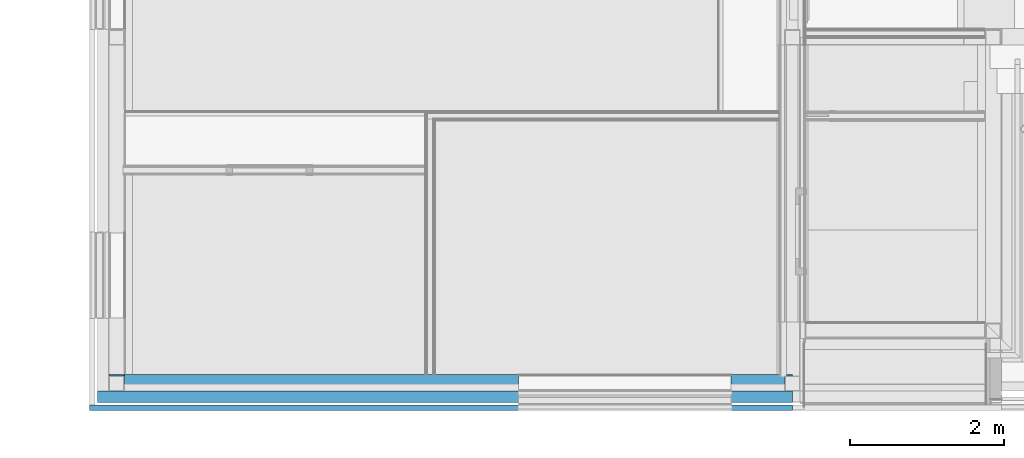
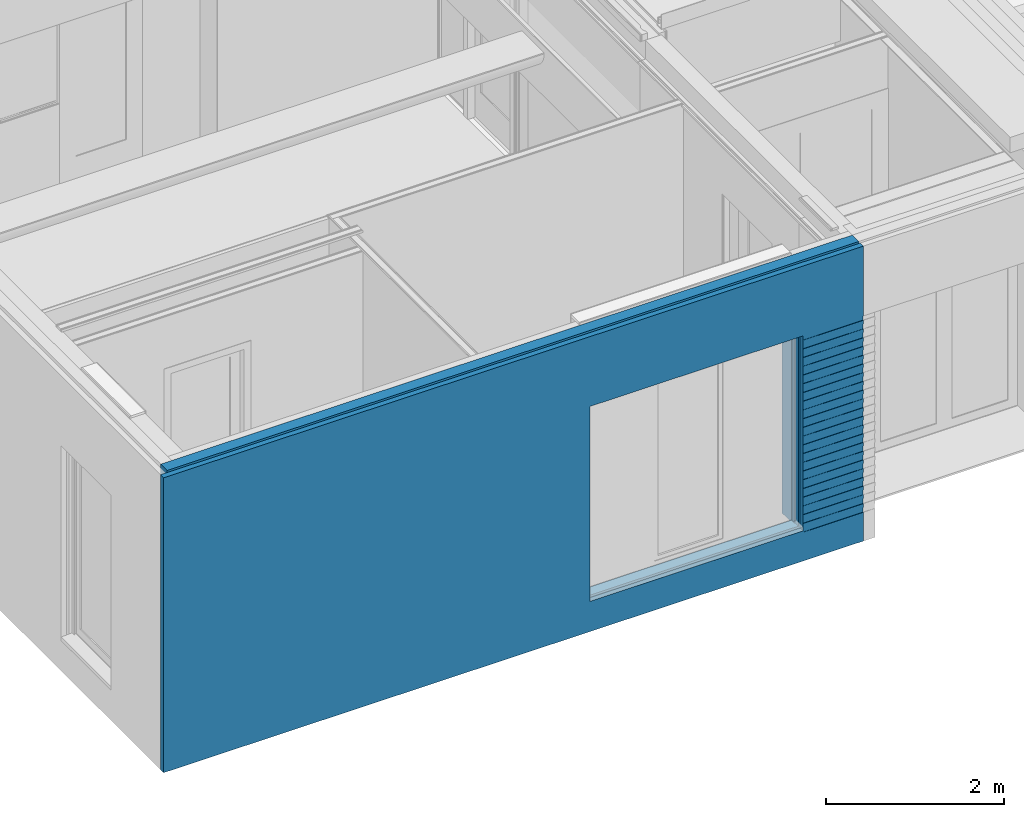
# One storey, part 38 of 165: 3 building element parts, 1 opening, 1 element without a shape of its own.
"""IFC2X3 building model written with IfcOpenShell, lengths in millimetres."""

import ifcopenshell
import ifcopenshell.guid

model = None  # the IFC model being written
_history = None  # IfcOwnerHistory: only IFC2X3 demands one
_inside = {}  # id of a spatial element -> (the spatial element, [elements in it])
_under = {}  # id of a project, library or spatial element -> (it, [spatial elements below it])
_declared = {}  # id of a project -> (the project, [libraries it declares])
_typed = {}  # id of a type object -> (the type object, [elements of that type])
_made_of = {}  # id of a material, layer set ... -> (it, [elements and type objects made of it])


def new_model(schema):
    """Start an empty IFC model of exactly this schema.

    Asked for "IFC4X3", IfcOpenShell would pick the latest addendum, in which some entities
    have other attributes; the version numbers below select the first issue.
    IFC2X3 requires an IfcOwnerHistory on every rooted entity: one is made here for all.
    """
    global model, _history
    if schema == "IFC4X3":
        model = ifcopenshell.file(schema_version=(4, 3, 0, 0))
    else:
        model = ifcopenshell.file(schema=schema)
    _inside.clear()
    _under.clear()
    _declared.clear()
    _typed.clear()
    _made_of.clear()
    _history = None
    if model.schema == "IFC2X3":
        org = make("IfcOrganization", Name="unknown")
        user = make(
            "IfcPersonAndOrganization",
            ThePerson=make("IfcPerson", FamilyName="unknown"),
            TheOrganization=org,
        )
        app = make(
            "IfcApplication",
            ApplicationDeveloper=org,
            Version="unknown",
            ApplicationFullName="unknown",
            ApplicationIdentifier="unknown",
        )
        _history = make(
            "IfcOwnerHistory",
            OwningUser=user,
            OwningApplication=app,
            ChangeAction="ADDED",
            CreationDate=0,
        )
    return model


def make(cls, **values):
    """One entity of the class cls with the attributes given. An attribute that is None is left unset."""
    return model.create_entity(
        cls, **{name: value for name, value in values.items() if value is not None}
    )


def entity(cls, *values):
    """Any entity or typed value of the class cls, its attributes in the order of the schema. None: left unset."""
    e = model.create_entity(cls)
    for i, value in enumerate(values):
        if value is not None:
            e[i] = value
    return e


def rooted(cls, **values):
    """An entity with a GlobalId (a new one), such as an element, a storey or a relation."""
    return make(cls, GlobalId=ifcopenshell.guid.new(), OwnerHistory=_history, **values)


def si_unit(unit_type, name, prefix=None):
    """IfcSIUnit, for example si_unit("LENGTHUNIT", "METRE", prefix="MILLI")."""
    return make("IfcSIUnit", UnitType=unit_type, Prefix=prefix, Name=name)


def converted_unit(unit_type, name, factor, base, dimensions=None, offset=None):
    """IfcConversionBasedUnit, such as the inch: factor (a typed value) times the base unit."""
    return make(
        "IfcConversionBasedUnit"
        if offset is None
        else "IfcConversionBasedUnitWithOffset",
        ConversionOffset=offset,
        Dimensions=None
        if dimensions is None
        else entity("IfcDimensionalExponents", *dimensions),
        UnitType=unit_type,
        Name=name,
        ConversionFactor=make(
            "IfcMeasureWithUnit", ValueComponent=factor, UnitComponent=base
        ),
    )


def derived_unit(unit_type, elements):
    """IfcDerivedUnit: a product of units, each with its exponent."""
    return make(
        "IfcDerivedUnit",
        Elements=[
            make("IfcDerivedUnitElement", Unit=unit, Exponent=power)
            for unit, power in elements
        ],
        UnitType=unit_type,
    )


def money_unit(currency):
    """IfcMonetaryUnit."""
    return make("IfcMonetaryUnit", Currency=currency)


def assignment(units):
    """IfcUnitAssignment: the units of a project."""
    return None if units is None else make("IfcUnitAssignment", Units=units)


def point(xyz):
    """IfcCartesianPoint."""
    return None if xyz is None else make("IfcCartesianPoint", Coordinates=xyz)


def direction(xyz):
    """IfcDirection."""
    return None if xyz is None else make("IfcDirection", DirectionRatios=xyz)


def frame(location, z_axis=None, x_axis=None):
    """IfcAxis2Placement3D, a coordinate frame: its origin and axes. An axis left out is left unset."""
    return make(
        "IfcAxis2Placement3D",
        Location=point(location),
        Axis=direction(z_axis),
        RefDirection=direction(x_axis),
    )


def origin_with_axes():
    """The frame at (0, 0, 0) with the z axis (0, 0, 1) and the x axis (1, 0, 0) written out."""
    return frame((0.0, 0.0, 0.0), z_axis=(0.0, 0.0, 1.0), x_axis=(1.0, 0.0, 0.0))


def place(relative_to, where):
    """IfcLocalPlacement: puts the frame where relative to a parent placement (None: the world)."""
    return make(
        "IfcLocalPlacement", PlacementRelTo=relative_to, RelativePlacement=where
    )


def context(
    kind, dimensions, precision=None, world=None, true_north=None, identifier=None
):
    """IfcGeometricRepresentationContext, for example the 3D "Model" context."""
    return make(
        "IfcGeometricRepresentationContext",
        ContextIdentifier=identifier,
        ContextType=kind,
        CoordinateSpaceDimension=dimensions,
        Precision=precision,
        WorldCoordinateSystem=world,
        TrueNorth=true_north,
    )


def subcontext(parent, identifier, kind, view, scale=None):
    """IfcGeometricRepresentationSubContext, for example "Body" below "Model"."""
    return make(
        "IfcGeometricRepresentationSubContext",
        ContextIdentifier=identifier,
        ContextType=kind,
        ParentContext=parent,
        TargetScale=scale,
        TargetView=view,
    )


def project(units=None, contexts=None):
    """IfcProject with its units and contexts."""
    return rooted(
        "IfcProject",
        Name="project",
        RepresentationContexts=contexts,
        UnitsInContext=assignment(units),
    )


def spatial(cls, under=None, at=None, **own):
    """A site, building, storey or space (cls), placed at a placement, below another one or the project."""
    s = rooted(cls, ObjectPlacement=at, **own)
    if under is not None:
        _under.setdefault(under.id(), (under, []))[1].append(s)
    return s


def faces_of(points, faces, orient=None, outer=None):
    """IfcFace entities. A face is a list of loops; a loop is a list of indices into points, from 0.

    orient and outer hold one flag for each loop. By default every Orientation is true, the
    first loop of a face is its IfcFaceOuterBound and the others are IfcFaceBound.
    """
    made = []
    for i, loops in enumerate(faces):
        bounds = []
        for j, loop in enumerate(loops):
            is_outer = j == 0 if outer is None else outer[i][j]
            bounds.append(
                make(
                    "IfcFaceOuterBound" if is_outer else "IfcFaceBound",
                    Bound=make("IfcPolyLoop", Polygon=[points[k] for k in loop]),
                    Orientation=True if orient is None else orient[i][j],
                )
            )
        made.append(make("IfcFace", Bounds=bounds))
    return made


def faceted_brep(points, faces, orient=None, outer=None, voids=None):
    """IfcFacetedBrep: a solid bounded by flat faces; with voids (closed shells), ...WithVoids."""
    shared = [point(p) for p in points]
    hull = make("IfcClosedShell", CfsFaces=faces_of(shared, faces, orient, outer))
    if voids is None:
        return make("IfcFacetedBrep", Outer=hull)
    return make(
        "IfcFacetedBrepWithVoids",
        Outer=hull,
        Voids=[
            make(cls, CfsFaces=faces_of(shared, fs, o, b)) for cls, fs, o, b in voids
        ],
    )


def shape(context_of_items, identifier, shape_type, items):
    """IfcShapeRepresentation: the items that make up one representation, for example the "Body"."""
    return make(
        "IfcShapeRepresentation",
        ContextOfItems=context_of_items,
        RepresentationIdentifier=identifier,
        RepresentationType=shape_type,
        Items=items,
    )


def material(Name=None, Category=None):
    """IfcMaterial."""
    return make("IfcMaterial", Name=Name, Category=Category)


def made_of(thing, what):
    """Note that an element or type object is made of a material, layer set ...; save() writes the relation."""
    if what is not None:
        _made_of.setdefault(what.id(), (what, []))[1].append(thing)
    return thing


def type_object(cls, material=None, **own):
    """A type object (cls), such as IfcWallType, which elements share."""
    return made_of(rooted(cls, **own), material)


def element(
    cls,
    number,
    at=None,
    inside=None,
    cuts=None,
    type_object=None,
    material=None,
    context=None,
    identifier="Body",
    shape_type=None,
    held_by="IfcProductDefinitionShape",
    body=None,
    shapes=None,
    **own,
):
    """One element of the class cls, such as IfcWall. Its Tag is "e" and its number.

    at: its placement. inside: the storey or other place that contains it. cuts: it is an
    opening in that element (IfcRelVoidsElement). A single representation is given by context,
    identifier, shape_type and body (its items); several are given by shapes. held_by: the class
    of the entity that holds the representations. save() writes the other relations.
    """
    e = rooted(cls, Tag="e%d" % number, ObjectPlacement=at, **own)
    if body is not None:
        shapes = [shape(context, identifier, shape_type, body)]
    if shapes is not None:
        e.Representation = make(held_by, Representations=shapes)
    if inside is not None:
        _inside.setdefault(inside.id(), (inside, []))[1].append(e)
    if cuts is not None:
        rooted(
            "IfcRelVoidsElement", RelatingBuildingElement=cuts, RelatedOpeningElement=e
        )
    if type_object is not None:
        _typed.setdefault(type_object.id(), (type_object, []))[1].append(e)
    return made_of(e, material)


def aggregate(whole, parts):
    """IfcRelAggregates: a whole, such as a stair, and the parts it consists of."""
    return rooted("IfcRelAggregates", RelatingObject=whole, RelatedObjects=parts)


def save(model, path):
    """Write the relations noted so far, then the file.

    IfcRelAggregates (storeys below a building ...), IfcRelContainedInSpatialStructure (elements
    in a storey), IfcRelDefinesByType, IfcRelAssociatesMaterial and IfcRelDeclares: one each for
    every whole, place, type object, material and project.
    """
    for whole, parts in _under.values():
        aggregate(whole, parts)
    for where, things in _inside.values():
        rooted(
            "IfcRelContainedInSpatialStructure",
            RelatedElements=things,
            RelatingStructure=where,
        )
    for kind, things in _typed.values():
        rooted("IfcRelDefinesByType", RelatedObjects=things, RelatingType=kind)
    for what, things in _made_of.values():
        rooted("IfcRelAssociatesMaterial", RelatedObjects=things, RelatingMaterial=what)
    for by, libraries in _declared.values():
        rooted("IfcRelDeclares", RelatingContext=by, RelatedDefinitions=libraries)
    model.write(path)


model = new_model("IFC2X3")

# Units and contexts
model_context = context("Model", 3, precision=0.01, world=origin_with_axes(), true_north=direction((0.0, 1.0)))
body_context = subcontext(model_context, "Body", "Model", "MODEL_VIEW")
ifc_project = project(units=[si_unit("LENGTHUNIT", "METRE", prefix="MILLI"), si_unit("AREAUNIT", "SQUARE_METRE"), si_unit("VOLUMEUNIT", "CUBIC_METRE"), converted_unit("PLANEANGLEUNIT", "DEGREE", entity("IfcPlaneAngleMeasure", 0.0174532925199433), si_unit("PLANEANGLEUNIT", "RADIAN"), dimensions=[0, 0, 0, 0, 0, 0, 0]), money_unit("EUR"), converted_unit("TIMEUNIT", "Year", entity("IfcTimeMeasure", 31556926.0), si_unit("TIMEUNIT", "SECOND"), dimensions=[0, 0, 1, 0, 0, 0, 0]), si_unit("MASSUNIT", "GRAM", prefix="KILO"), si_unit("THERMODYNAMICTEMPERATUREUNIT", "DEGREE_CELSIUS"), si_unit("LUMINOUSINTENSITYUNIT", "LUMEN"), si_unit("ENERGYUNIT", "JOULE", prefix="MEGA"), derived_unit("THERMALCONDUCTANCEUNIT", [(si_unit("POWERUNIT", "WATT"), 1), (si_unit("LENGTHUNIT", "METRE"), -1), (si_unit("THERMODYNAMICTEMPERATUREUNIT", "KELVIN"), -1)]), derived_unit("SPECIFICHEATCAPACITYUNIT", [(si_unit("ENERGYUNIT", "JOULE"), 1), (si_unit("MASSUNIT", "GRAM", prefix="KILO"), -1), (si_unit("THERMODYNAMICTEMPERATUREUNIT", "KELVIN"), -1)]), derived_unit("MASSDENSITYUNIT", [(si_unit("MASSUNIT", "GRAM", prefix="KILO"), 1), (si_unit("VOLUMEUNIT", "CUBIC_METRE"), -1)])], contexts=[model_context])

# Site, building, storey
site_placement = place(None, origin_with_axes())
site = spatial("IfcSite", under=ifc_project, at=site_placement, Name="Site", CompositionType="ELEMENT")
building_placement = place(site_placement, origin_with_axes())
building = spatial("IfcBuilding", under=site, at=building_placement, Name="Naam gebouw", CompositionType="ELEMENT")
storey_placement = place(building_placement, origin_with_axes())
storey = spatial("IfcBuildingStorey", under=building, at=storey_placement, Name="Begane grond", CompositionType="ELEMENT", Elevation=0.0)

# Wall, opening, building element parts
wall_type = type_object("IfcWallType", Name="21 Buitenwand spouwmuur 464", PredefinedType="NOTDEFINED")
wall_placement = place(storey_placement, frame((0.0, 0.0, -485.0), z_axis=(0.0, 0.0, 1.0), x_axis=(1.0, 0.0, 0.0)))
wall = element("IfcWall", 1, at=wall_placement, inside=storey, type_object=wall_type, Name="21_Wand-x")
opening_placement = place(wall_placement, frame((6680.999999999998, 0.0, 475.0), z_axis=(0.0, 0.0, 1.0), x_axis=(1.0, 0.0, 0.0)))
element("IfcOpeningElement", 2, at=opening_placement, cuts=wall, Name="_Merk AF", context=body_context, shape_type="Brep", body=[
    faceted_brep([(-1375.0, 0.0, 2620.0), (1374.999999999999, 0.0, 2620.0), (1374.999999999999, 0.0, 3620.0), (-1375.0, 0.0, 3620.0), (-1375.0, -71.99999999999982, 2620.0), (1374.999999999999, -71.99999999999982, 2620.0), (1374.999999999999, 0.0, -60.00000000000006), (1374.999999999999, 0.0, -1060.0), (1374.999999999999, 214.9999999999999, -1060.0), (1374.999999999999, 215.0000000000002, 3620.0), (-1375.0, 215.0000000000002, 3620.0), (-1375.0, 0.0, -60.00000000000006), (-1375.0, 214.9999999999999, -1060.0), (-1375.0, 0.0, -1060.0), (-1375.0, -71.99999999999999, -60.00000000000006), (-1385.0, -71.99999999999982, 2620.0), (-1385.0, -251.0000000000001, 2620.0), (1385.000000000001, -251.0000000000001, 2620.0), (1385.000000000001, -71.99999999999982, 2620.0), (1374.999999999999, -71.99999999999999, -60.00000000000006), (-1385.0, -71.99999999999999, -60.00000000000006), (-1385.0, -251.0000000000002, -60.00000000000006), (1385.000000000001, -251.0000000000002, -60.00000000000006), (1385.000000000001, -71.99999999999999, -60.00000000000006)], [[[0, 1, 2, 3]], [[1, 0, 4, 5]], [[1, 6, 7, 8, 9, 2]], [[3, 2, 9, 10]], [[11, 0, 3, 10, 12, 13]], [[0, 11, 14, 4]], [[5, 4, 15, 16, 17, 18]], [[6, 1, 5, 19]], [[6, 11, 13, 7]], [[7, 13, 12, 8]], [[9, 8, 12, 10]], [[11, 6, 19, 14]], [[4, 14, 20, 15]], [[15, 20, 21, 16]], [[16, 21, 22, 17]], [[23, 18, 17, 22]], [[19, 5, 18, 23]], [[14, 19, 23, 22, 21, 20]]]),
])
ifc_material_1 = material(Name="Steen - Kalkzandsteen C")
building_element_part_1_placement = place(wall_placement, origin_with_axes())
building_element_part_1 = element("IfcBuildingElementPart", 3, at=building_element_part_1_placement, material=ifc_material_1, Name="Steen - Kalkzandsteen C", context=body_context, shape_type="Brep", body=[
    faceted_brep([(8055.999999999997, 214.0000000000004, 5.000000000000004), (8850.000000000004, 214.0000000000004, 5.000000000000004), (8850.000000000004, 214.0000000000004, 0.0), (8055.999999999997, 214.0000000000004, 0.0), (8850.000000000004, 0.0, 5.000000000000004), (8055.999999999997, 0.0, 5.000000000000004), (8850.000000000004, 0.0, 0.0), (8055.999999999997, 0.0, 0.0)], [[[0, 1, 2, 3]], [[4, 1, 0, 5]], [[1, 4, 6, 2]], [[3, 2, 6, 7]], [[5, 0, 3, 7]], [[4, 5, 7, 6]]]),
    faceted_brep([(0.0, 214.0000000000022, 5.000000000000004), (5305.999999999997, 214.0000000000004, 5.000000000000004), (5305.999999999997, 214.0000000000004, 0.0), (0.0, 214.0000000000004, 0.0), (5305.999999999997, 0.0, 5.000000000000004), (0.0, 199.9999999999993, 5.000000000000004), (199.9999999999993, 199.9999999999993, 5.000000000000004), (199.9999999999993, 0.0, 5.000000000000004), (5305.999999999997, 0.0, 0.0), (0.0, 0.0, 0.0), (0.0, 0.0, 5.000000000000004)], [[[0, 1, 2, 3]], [[4, 1, 0, 5, 6, 7]], [[1, 4, 8, 2]], [[9, 3, 2, 8]], [[5, 0, 3, 9, 10]], [[6, 5, 10, 7]], [[4, 7, 10, 9, 8]]]),
    faceted_brep([(8850.000000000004, 199.9999999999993, 384.9999999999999), (8850.000000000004, 214.0000000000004, 384.9999999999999), (8850.000000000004, 214.0000000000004, 3765.000002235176), (8850.000000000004, 199.9999999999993, 3765.000002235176), (8055.999999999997, 214.0000000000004, 384.9999999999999), (8750.0, 199.9999999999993, 384.9999999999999), (8750.0, 0.0, 384.9999999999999), (8055.999999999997, 0.0, 384.9999999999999), (8055.999999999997, 214.0000000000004, 3795.0), (8747.000000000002, 214.0000000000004, 3795.0), (8747.000000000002, 214.0000000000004, 3790.000002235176), (8650.000000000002, 214.0000000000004, 3790.000002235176), (8650.000000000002, 214.0000000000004, 3765.000002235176), (8750.0, 0.0, 3765.000002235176), (8750.0, 199.9999999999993, 3765.000002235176), (8650.000000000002, 0.0, 3765.000002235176), (8650.000000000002, 0.0, 3790.000002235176), (8747.000000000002, 0.0, 3790.000002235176), (8747.000000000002, 0.0, 3795.0), (8055.999999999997, 0.0, 3795.0)], [[[0, 1, 2, 3]], [[4, 1, 0, 5, 6, 7]], [[1, 4, 8, 9, 10, 11, 12, 2]], [[13, 14, 3, 2, 12, 15]], [[5, 0, 3, 14]], [[6, 5, 14, 13]], [[7, 6, 13, 15, 16, 17, 18, 19]], [[4, 7, 19, 8]], [[19, 18, 9, 8]], [[9, 18, 17, 10]], [[10, 17, 16, 11]], [[11, 16, 15, 12]]]),
    faceted_brep([(5305.999999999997, 0.0, 384.9999999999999), (5305.999999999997, 214.0000000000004, 384.9999999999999), (5305.999999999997, 214.0000000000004, 3795.0), (5305.999999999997, 0.0, 3795.0), (0.0, 214.0000000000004, 384.9999999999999), (199.9999999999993, 0.0, 384.9999999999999), (199.9999999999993, 199.9999999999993, 384.9999999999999), (0.0, 199.9999999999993, 384.9999999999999), (6.857447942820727e-08, 214.0000000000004, 3775.0), (304.0000044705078, 214.0000000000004, 3775.0), (304.0000044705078, 214.0000000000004, 3790.0), (201.0000000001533, 214.0000000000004, 3790.0), (201.0000000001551, 214.0000000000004, 3795.0), (201.0000000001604, -1.332267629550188e-10, 3795.0), (201.0000000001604, -1.35003119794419e-10, 3790.0), (304.0000044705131, -1.314504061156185e-10, 3790.0), (304.0000044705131, -1.314504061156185e-10, 3775.0), (199.9999999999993, 0.0, 3774.999999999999), (199.9999999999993, 199.9999999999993, 3775.0), (0.0, 199.9999999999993, 3775.0)], [[[0, 1, 2, 3]], [[4, 1, 0, 5, 6, 7]], [[1, 4, 8, 9, 10, 11, 12, 2]], [[12, 13, 3, 2]], [[5, 0, 3, 13, 14, 15, 16, 17]], [[6, 5, 17, 18]], [[7, 6, 18, 19]], [[4, 7, 19, 8]], [[17, 16, 9, 8, 19, 18]], [[16, 15, 10, 9]], [[15, 14, 11, 10]], [[14, 13, 12, 11]]]),
    faceted_brep([(8755.0, 214.0000000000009, 3795.0), (8755.0, 199.9999999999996, 3795.0), (8850.000000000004, 199.9999999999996, 3795.0), (8850.000000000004, 214.0000000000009, 3795.0), (8755.000000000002, 214.0000000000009, 3790.000002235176), (8755.000000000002, 199.9999999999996, 3790.000002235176), (8850.000000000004, 199.9999999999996, 3790.000002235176), (8850.000000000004, 214.0000000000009, 3790.000002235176)], [[[0, 1, 2, 3]], [[4, 5, 1, 0]], [[5, 6, 2, 1]], [[3, 2, 6, 7]], [[3, 7, 4, 0]], [[7, 6, 5, 4]]]),
    faceted_brep([(5.000000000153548, 199.9999999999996, 3795.0), (195.0000000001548, 199.9999999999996, 3795.0), (195.0000000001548, 214.0000000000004, 3795.0), (5.000000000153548, 214.0000000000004, 3795.0), (195.0000000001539, 199.9999999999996, 3790.0), (5.000000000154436, 199.9999999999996, 3790.0), (195.0000000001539, 214.0000000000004, 3790.0), (5.000000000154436, 214.0000000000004, 3790.0)], [[[0, 1, 2, 3]], [[4, 1, 0, 5]], [[1, 4, 6, 2]], [[6, 7, 3, 2]], [[5, 0, 3, 7]], [[4, 5, 7, 6]]]),
])
ifc_material_2 = material(Name="Steen - Baksteen")
building_element_part_2_placement = place(wall_placement, origin_with_axes())
building_element_part_2 = element("IfcBuildingElementPart", 4, at=building_element_part_2_placement, material=ifc_material_2, Name="Steen - Baksteen", context=body_context, shape_type="Brep", body=[
    faceted_brep([(8850.000000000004, -245.0000227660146, 3035.000036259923), (8850.000000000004, -249.9999999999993, 3035.000036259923), (8850.000000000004, -249.9999999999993, 2984.999978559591), (8850.000000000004, -245.0000227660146, 2984.999978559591), (8850.000000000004, -245.0000227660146, 2914.999970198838), (8850.000000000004, -249.9999999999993, 2914.999970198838), (8850.000000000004, -249.9999999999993, 2864.999992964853), (8850.000000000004, -245.0000227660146, 2864.999992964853), (8850.000000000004, -245.0000227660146, 2795.000024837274), (8850.000000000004, -249.9999999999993, 2795.000024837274), (8850.000000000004, -249.9999999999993, 2744.999967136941), (8850.000000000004, -245.0000227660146, 2744.999967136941), (8850.000000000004, -245.0000227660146, 2674.999999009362), (8850.000000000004, -249.9999999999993, 2674.999999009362), (8850.000000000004, -249.9999999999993, 2625.000021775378), (8850.000000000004, -245.0000227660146, 2625.000021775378), (8850.000000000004, -245.0000227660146, 2555.000013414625), (8850.000000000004, -249.9999999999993, 2555.000013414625), (8850.000000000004, -249.9999999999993, 2504.999995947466), (8850.000000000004, -245.0000227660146, 2504.999995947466), (8850.000000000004, -245.0000227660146, 2434.999987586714), (8850.000000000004, -249.9999999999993, 2434.999987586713), (8850.000000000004, -249.9999999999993, 2385.000010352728), (8850.000000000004, -245.0000227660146, 2385.000010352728), (8850.000000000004, -245.0000227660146, 2315.000001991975), (8850.000000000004, -249.9999999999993, 2315.000001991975), (8850.000000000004, -249.9999999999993, 2264.999944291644), (8850.000000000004, -245.0000227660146, 2264.999944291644), (8850.000000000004, -245.0000227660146, 2194.999976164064), (8850.000000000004, -249.9999999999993, 2194.999976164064), (8850.000000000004, -249.9999999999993, 2144.99999893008), (8850.000000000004, -245.0000227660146, 2144.99999893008), (8850.000000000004, -245.0000227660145, 2075.0000308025), (8850.000000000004, -249.9999999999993, 2075.0000308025), (8850.000000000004, -249.9999999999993, 2024.999973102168), (8850.000000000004, -245.0000227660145, 2024.999973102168), (8850.000000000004, -245.0000227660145, 1954.999964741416), (8850.000000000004, -249.9999999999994, 1954.999964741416), (8850.000000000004, -249.9999999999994, 1905.000027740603), (8850.000000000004, -245.0000227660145, 1905.000027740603), (8850.000000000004, -245.0000227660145, 1835.000019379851), (8850.000000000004, -249.9999999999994, 1835.000019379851), (8850.000000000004, -249.9999999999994, 1784.999961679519), (8850.000000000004, -245.0000227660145, 1784.999961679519), (8850.000000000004, -245.0000227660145, 1714.999993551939), (8850.000000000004, -249.9999999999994, 1714.999993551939), (8850.000000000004, -249.9999999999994, 1664.999976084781), (8850.000000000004, -245.0000227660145, 1664.999976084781), (8850.000000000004, -245.0000227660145, 1595.000007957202), (8850.000000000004, -249.9999999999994, 1595.000007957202), (8850.000000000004, -249.9999999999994, 1544.99995025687), (8850.000000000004, -245.0000227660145, 1544.99995025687), (8850.000000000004, -245.0000227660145, 1474.999982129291), (8850.000000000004, -249.9999999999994, 1474.999982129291), (8850.000000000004, -249.9999999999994, 1425.000004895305), (8850.000000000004, -245.0000227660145, 1425.000004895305), (8850.000000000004, -245.0000227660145, 1354.999996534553), (8850.000000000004, -249.9999999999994, 1354.999996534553), (8850.000000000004, -249.9999999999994, 1304.999979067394), (8850.000000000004, -245.0000227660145, 1304.999979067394), (8850.000000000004, -245.0000227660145, 1234.999970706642), (8850.000000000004, -249.9999999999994, 1234.999970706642), (8850.000000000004, -249.9999999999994, 1184.999993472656), (8850.000000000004, -245.0000227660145, 1184.999993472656), (8850.000000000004, -245.0000227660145, 1115.000025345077), (8850.000000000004, -249.9999999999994, 1115.000025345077), (8850.000000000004, -249.9999999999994, 1064.999927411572), (8850.000000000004, -245.0000227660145, 1064.999927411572), (8850.000000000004, -245.0000227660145, 994.9999995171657), (8850.000000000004, -249.9999999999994, 994.9999995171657), (8850.000000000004, -249.9999999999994, 945.0000222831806), (8850.000000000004, -245.0000227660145, 945.0000222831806), (8850.000000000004, -245.0000227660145, 875.0000139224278), (8850.000000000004, -249.9999999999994, 875.0000139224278), (8850.000000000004, -249.9999999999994, 824.9999562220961), (8850.000000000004, -245.0000227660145, 824.9999562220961), (8850.000000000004, -245.0000227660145, 754.9999478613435), (8850.000000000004, -249.9999999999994, 754.9999478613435), (8850.000000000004, -249.9999999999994, 705.0000108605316), (8850.000000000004, -245.0000227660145, 705.0000108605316), (8850.000000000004, -245.0000227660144, 635.0000427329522), (8850.000000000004, -249.9999999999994, 635.0000427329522), (8850.000000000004, -249.9999999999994, 584.999944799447), (8850.000000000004, -245.0000227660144, 584.999944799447), (8850.000000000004, -245.0000227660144, 514.9999766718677), (8850.000000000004, -249.9999999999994, 514.9999766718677), (8850.000000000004, -249.9999999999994, 465.0000396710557), (8850.000000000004, -245.0000227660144, 465.0000396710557), (8850.000000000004, -245.0000227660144, 395.0000313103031), (8850.000000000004, -249.9999999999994, 395.0000313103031), (8850.000000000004, -249.9999999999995, 0.0), (8850.000000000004, -179.9999999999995, 0.0), (8850.000000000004, -179.9999999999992, 4055.0), (8850.000000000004, -249.9999999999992, 4055.0), (8850.000000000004, -249.9999999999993, 3095.000008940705), (8850.000000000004, -245.0000227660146, 3095.000008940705), (8065.999999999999, -245.0000227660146, 3035.000036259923), (8065.999999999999, -249.9999999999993, 3035.000036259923), (8065.999999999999, -249.9999999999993, 2984.999978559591), (8065.999999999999, -245.0000227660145, 2984.999978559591), (8065.999999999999, -245.0000227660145, 2914.999970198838), (8065.999999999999, -249.9999999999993, 2914.999970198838), (8065.999999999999, -249.9999999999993, 2864.999992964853), (8065.999999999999, -245.0000227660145, 2864.999992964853), (8065.999999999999, -245.0000227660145, 2795.000024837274), (8065.999999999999, -249.9999999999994, 2795.000024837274), (8065.999999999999, -249.9999999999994, 2744.999967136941), (8065.999999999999, -245.0000227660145, 2744.999967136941), (8065.999999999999, -245.0000227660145, 2674.999999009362), (8065.999999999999, -249.9999999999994, 2674.999999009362), (8065.999999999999, -249.9999999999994, 2625.000021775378), (8065.999999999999, -245.0000227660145, 2625.000021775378), (8065.999999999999, -245.0000227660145, 2555.000013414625), (8065.999999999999, -249.9999999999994, 2555.000013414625), (8065.999999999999, -249.9999999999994, 2504.999995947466), (8065.999999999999, -245.0000227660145, 2504.999995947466), (8065.999999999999, -245.0000227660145, 2434.999987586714), (8065.999999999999, -249.9999999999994, 2434.999987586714), (8065.999999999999, -249.9999999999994, 2385.000010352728), (8065.999999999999, -245.0000227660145, 2385.000010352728), (8065.999999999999, -245.0000227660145, 2315.000001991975), (8065.999999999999, -249.9999999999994, 2315.000001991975), (8065.999999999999, -249.9999999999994, 2264.999944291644), (8065.999999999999, -245.0000227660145, 2264.999944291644), (8065.999999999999, -245.0000227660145, 2194.999976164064), (8065.999999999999, -249.9999999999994, 2194.999976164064), (8065.999999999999, -249.9999999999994, 2144.99999893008), (8065.999999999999, -245.0000227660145, 2144.99999893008), (8065.999999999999, -245.0000227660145, 2075.0000308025), (8065.999999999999, -249.9999999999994, 2075.0000308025), (8065.999999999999, -249.9999999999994, 2024.999973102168), (8065.999999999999, -245.0000227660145, 2024.999973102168), (8065.999999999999, -245.0000227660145, 1954.999964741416), (8065.999999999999, -249.9999999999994, 1954.999964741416), (8065.999999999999, -249.9999999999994, 1905.000027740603), (8065.999999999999, -245.0000227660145, 1905.000027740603), (8065.999999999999, -245.0000227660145, 1835.000019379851), (8065.999999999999, -249.9999999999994, 1835.000019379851), (8065.999999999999, -249.9999999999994, 1784.999961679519), (8065.999999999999, -245.0000227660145, 1784.999961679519), (8065.999999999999, -245.0000227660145, 1714.999993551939), (8065.999999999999, -249.9999999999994, 1714.999993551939), (8065.999999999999, -249.9999999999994, 1664.999976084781), (8065.999999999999, -245.0000227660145, 1664.999976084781), (8065.999999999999, -245.0000227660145, 1595.000007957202), (8065.999999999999, -249.9999999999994, 1595.000007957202), (8065.999999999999, -249.9999999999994, 1544.99995025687), (8065.999999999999, -245.0000227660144, 1544.99995025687), (8065.999999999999, -245.0000227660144, 1474.999982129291), (8065.999999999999, -249.9999999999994, 1474.999982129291), (8065.999999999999, -249.9999999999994, 1425.000004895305), (8065.999999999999, -245.0000227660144, 1425.000004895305), (8065.999999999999, -245.0000227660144, 1354.999996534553), (8065.999999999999, -249.9999999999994, 1354.999996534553), (8065.999999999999, -249.9999999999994, 1304.999979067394), (8065.999999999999, -245.0000227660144, 1304.999979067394), (8065.999999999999, -245.0000227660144, 1234.999970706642), (8065.999999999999, -249.9999999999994, 1234.999970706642), (8065.999999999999, -249.9999999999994, 1184.999993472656), (8065.999999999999, -245.0000227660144, 1184.999993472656), (8065.999999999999, -245.0000227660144, 1115.000025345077), (8065.999999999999, -249.9999999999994, 1115.000025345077), (8065.999999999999, -249.9999999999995, 1064.999927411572), (8065.999999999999, -245.0000227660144, 1064.999927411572), (8065.999999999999, -245.0000227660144, 994.9999995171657), (8065.999999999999, -249.9999999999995, 994.9999995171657), (8065.999999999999, -249.9999999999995, 945.0000222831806), (8065.999999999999, -245.0000227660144, 945.0000222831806), (8065.999999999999, -245.0000227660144, 875.0000139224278), (8065.999999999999, -249.9999999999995, 875.0000139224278), (8065.999999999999, -249.9999999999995, 824.9999562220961), (8065.999999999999, -245.0000227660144, 824.9999562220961), (8065.999999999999, -245.0000227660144, 754.9999478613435), (8065.999999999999, -249.9999999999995, 754.9999478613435), (8065.999999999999, -249.9999999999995, 705.0000108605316), (8065.999999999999, -245.0000227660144, 705.0000108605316), (8065.999999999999, -245.0000227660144, 635.0000427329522), (8065.999999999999, -249.9999999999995, 635.0000427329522), (8065.999999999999, -249.9999999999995, 584.999944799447), (8065.999999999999, -245.0000227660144, 584.999944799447), (8065.999999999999, -245.0000227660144, 514.9999766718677), (8065.999999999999, -249.9999999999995, 514.9999766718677), (8065.999999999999, -249.9999999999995, 465.0000396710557), (8065.999999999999, -245.0000227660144, 465.0000396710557), (8065.999999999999, -245.0000227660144, 414.9999999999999), (8065.999999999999, -245.0000227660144, 395.0000313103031), (8065.999999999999, -249.9999999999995, 395.0000313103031), (8065.999999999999, -249.9999999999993, 3095.000008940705), (-250.0, -249.9999999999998, 4055.0), (-250.0, -250.0, 0.0), (8065.999999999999, -249.9999999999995, 414.9999999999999), (5295.999999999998, -249.9999999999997, 414.9999999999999), (5295.999999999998, -249.9999999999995, 3095.0), (-250.0, -180.0000000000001, 0.0), (-250.0, -179.9999999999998, 4055.0), (8065.999999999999, -179.9999999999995, 414.9999999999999), (8065.999999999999, -179.9999999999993, 3095.0), (5295.999999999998, -179.9999999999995, 3095.0), (5295.999999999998, -179.9999999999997, 414.9999999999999), (8065.999999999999, -245.0000227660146, 3095.000008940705)], [[[0, 1, 2, 3, 4, 5, 6, 7, 8, 9, 10, 11, 12, 13, 14, 15, 16, 17, 18, 19, 20, 21, 22, 23, 24, 25, 26, 27, 28, 29, 30, 31, 32, 33, 34, 35, 36, 37, 38, 39, 40, 41, 42, 43, 44, 45, 46, 47, 48, 49, 50, 51, 52, 53, 54, 55, 56, 57, 58, 59, 60, 61, 62, 63, 64, 65, 66, 67, 68, 69, 70, 71, 72, 73, 74, 75, 76, 77, 78, 79, 80, 81, 82, 83, 84, 85, 86, 87, 88, 89, 90, 91, 92, 93, 94, 95]], [[1, 0, 96, 97]], [[1, 97, 98, 2]], [[3, 2, 98, 99]], [[4, 3, 99, 100]], [[5, 4, 100, 101]], [[5, 101, 102, 6]], [[7, 6, 102, 103]], [[8, 7, 103, 104]], [[9, 8, 104, 105]], [[9, 105, 106, 10]], [[11, 10, 106, 107]], [[12, 11, 107, 108]], [[13, 12, 108, 109]], [[13, 109, 110, 14]], [[15, 14, 110, 111]], [[16, 15, 111, 112]], [[17, 16, 112, 113]], [[17, 113, 114, 18]], [[19, 18, 114, 115]], [[20, 19, 115, 116]], [[21, 20, 116, 117]], [[21, 117, 118, 22]], [[23, 22, 118, 119]], [[24, 23, 119, 120]], [[25, 24, 120, 121]], [[25, 121, 122, 26]], [[27, 26, 122, 123]], [[28, 27, 123, 124]], [[29, 28, 124, 125]], [[29, 125, 126, 30]], [[31, 30, 126, 127]], [[32, 31, 127, 128]], [[33, 32, 128, 129]], [[33, 129, 130, 34]], [[35, 34, 130, 131]], [[36, 35, 131, 132]], [[37, 36, 132, 133]], [[37, 133, 134, 38]], [[39, 38, 134, 135]], [[40, 39, 135, 136]], [[41, 40, 136, 137]], [[41, 137, 138, 42]], [[43, 42, 138, 139]], [[44, 43, 139, 140]], [[45, 44, 140, 141]], [[45, 141, 142, 46]], [[47, 46, 142, 143]], [[48, 47, 143, 144]], [[49, 48, 144, 145]], [[49, 145, 146, 50]], [[51, 50, 146, 147]], [[52, 51, 147, 148]], [[53, 52, 148, 149]], [[53, 149, 150, 54]], [[55, 54, 150, 151]], [[56, 55, 151, 152]], [[57, 56, 152, 153]], [[57, 153, 154, 58]], [[59, 58, 154, 155]], [[60, 59, 155, 156]], [[61, 60, 156, 157]], [[61, 157, 158, 62]], [[63, 62, 158, 159]], [[64, 63, 159, 160]], [[65, 64, 160, 161]], [[65, 161, 162, 66]], [[67, 66, 162, 163]], [[68, 67, 163, 164]], [[69, 68, 164, 165]], [[69, 165, 166, 70]], [[71, 70, 166, 167]], [[72, 71, 167, 168]], [[73, 72, 168, 169]], [[73, 169, 170, 74]], [[75, 74, 170, 171]], [[76, 75, 171, 172]], [[77, 76, 172, 173]], [[77, 173, 174, 78]], [[79, 78, 174, 175]], [[80, 79, 175, 176]], [[81, 80, 176, 177]], [[81, 177, 178, 82]], [[83, 82, 178, 179]], [[84, 83, 179, 180]], [[85, 84, 180, 181]], [[85, 181, 182, 86]], [[87, 86, 182, 183]], [[88, 87, 183, 184, 185]], [[89, 88, 185, 186]], [[187, 94, 93, 188, 189, 90, 89, 186, 190, 191, 192]], [[189, 193, 91, 90]], [[193, 194, 92, 91], [195, 196, 197, 198]], [[194, 188, 93, 92]], [[199, 95, 94, 187, 192, 197, 196]], [[0, 95, 199, 96]], [[96, 199, 196, 195, 184, 183, 182, 181, 180, 179, 178, 177, 176, 175, 174, 173, 172, 171, 170, 169, 168, 167, 166, 165, 164, 163, 162, 161, 160, 159, 158, 157, 156, 155, 154, 153, 152, 151, 150, 149, 148, 147, 146, 145, 144, 143, 142, 141, 140, 139, 138, 137, 136, 135, 134, 133, 132, 131, 130, 129, 128, 127, 126, 125, 124, 123, 122, 121, 120, 119, 118, 117, 116, 115, 114, 113, 112, 111, 110, 109, 108, 107, 106, 105, 104, 103, 102, 101, 100, 99, 98, 97]], [[184, 190, 186, 185]], [[188, 194, 193, 189]], [[190, 184, 195, 198, 191]], [[197, 192, 191, 198]]]),
])
ifc_material_3 = material(Name="Isolatie - Steenwol zacht")
building_element_part_3_placement = place(wall_placement, origin_with_axes())
building_element_part_3 = element("IfcBuildingElementPart", 5, at=building_element_part_3_placement, material=ifc_material_3, Name="Isolatie - Steenwol zacht", context=body_context, shape_type="Brep", body=[
    faceted_brep([(8065.999999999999, -144.9999999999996, 3095.0), (5295.999999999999, -144.9999999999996, 3095.0), (5295.999999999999, -71.99999999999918, 3095.0), (5305.999999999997, -71.99999999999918, 3095.0), (8055.999999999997, -71.99999999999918, 3095.0), (8065.999999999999, -71.99999999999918, 3095.0), (8850.000000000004, -144.9999999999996, 0.0), (8850.000000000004, -144.9999999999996, 4055.0), (-144.9999999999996, -144.9999999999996, 4055.0), (-144.9999999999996, -144.9999999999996, 0.0), (8065.999999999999, -144.9999999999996, 414.9999999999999), (5295.999999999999, -144.9999999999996, 414.9999999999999), (5295.999999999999, -71.99999999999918, 414.9999999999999), (5305.999999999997, -71.99999999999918, 414.9999999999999), (8055.999999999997, 0.0, 3095.0), (5305.999999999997, 0.0, 3095.0), (8055.999999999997, -71.99999999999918, 414.9999999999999), (8065.999999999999, -71.99999999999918, 414.9999999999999), (8850.000000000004, 0.0, 0.0), (8850.000000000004, 0.0, 4055.0), (-144.9999999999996, 0.0, 4055.0), (-144.9999999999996, 0.0, 0.0), (5305.999999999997, 0.0, 414.9999999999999), (8055.999999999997, 0.0, 414.9999999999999)], [[[0, 1, 2, 3, 4, 5]], [[6, 7, 8, 9], [0, 10, 11, 1]], [[12, 2, 1, 11]], [[3, 2, 12, 13]], [[14, 4, 3, 15]], [[16, 17, 5, 4]], [[5, 17, 10, 0]], [[18, 19, 7, 6]], [[7, 19, 20, 8]], [[21, 9, 8, 20]], [[18, 6, 9, 21]], [[11, 10, 17, 16, 13, 12]], [[15, 3, 13, 22]], [[23, 16, 4, 14]], [[19, 18, 21, 20], [23, 14, 15, 22]], [[22, 13, 16, 23]]]),
])
aggregate(wall, [building_element_part_1, building_element_part_2, building_element_part_3])

save(model, "model.ifc")
